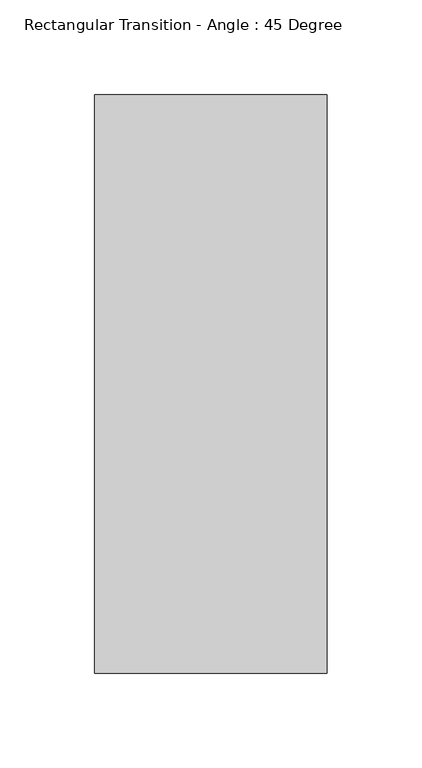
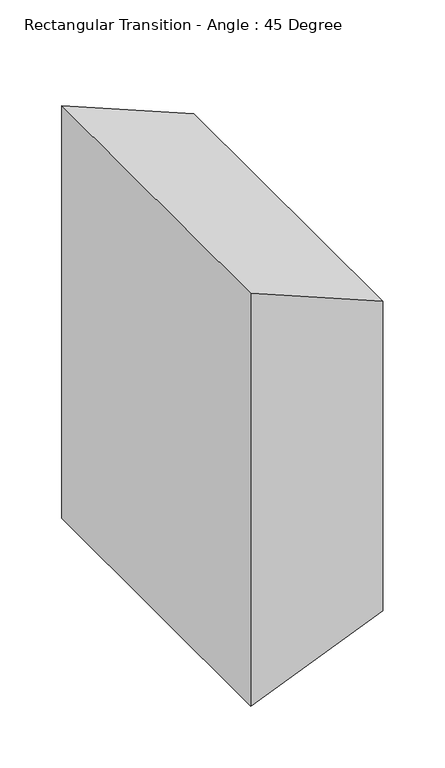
"""IFC4 building model written with IfcOpenShell, lengths in millimetres: duct fitting geometry, Rectangular Transition - Angle : 45 Degree."""

import ifcopenshell
import ifcopenshell.guid

model = None  # the IFC model being written
_history = None  # IfcOwnerHistory: only IFC2X3 demands one
_inside = {}  # id of a spatial element -> (the spatial element, [elements in it])
_under = {}  # id of a project, library or spatial element -> (it, [spatial elements below it])
_declared = {}  # id of a project -> (the project, [libraries it declares])
_typed = {}  # id of a type object -> (the type object, [elements of that type])
_made_of = {}  # id of a material, layer set ... -> (it, [elements and type objects made of it])


def new_model(schema):
    """Start an empty IFC model of exactly this schema.

    Asked for "IFC4X3", IfcOpenShell would pick the latest addendum, in which some entities
    have other attributes; the version numbers below select the first issue.
    IFC2X3 requires an IfcOwnerHistory on every rooted entity: one is made here for all.
    """
    global model, _history
    if schema == "IFC4X3":
        model = ifcopenshell.file(schema_version=(4, 3, 0, 0))
    else:
        model = ifcopenshell.file(schema=schema)
    _inside.clear()
    _under.clear()
    _declared.clear()
    _typed.clear()
    _made_of.clear()
    _history = None
    if model.schema == "IFC2X3":
        org = make("IfcOrganization", Name="unknown")
        user = make(
            "IfcPersonAndOrganization",
            ThePerson=make("IfcPerson", FamilyName="unknown"),
            TheOrganization=org,
        )
        app = make(
            "IfcApplication",
            ApplicationDeveloper=org,
            Version="unknown",
            ApplicationFullName="unknown",
            ApplicationIdentifier="unknown",
        )
        _history = make(
            "IfcOwnerHistory",
            OwningUser=user,
            OwningApplication=app,
            ChangeAction="ADDED",
            CreationDate=0,
        )
    return model


def make(cls, **values):
    """One entity of the class cls with the attributes given. An attribute that is None is left unset."""
    return model.create_entity(
        cls, **{name: value for name, value in values.items() if value is not None}
    )


def rooted(cls, **values):
    """An entity with a GlobalId (a new one), such as an element, a storey or a relation."""
    return make(cls, GlobalId=ifcopenshell.guid.new(), OwnerHistory=_history, **values)


def si_unit(unit_type, name, prefix=None):
    """IfcSIUnit, for example si_unit("LENGTHUNIT", "METRE", prefix="MILLI")."""
    return make("IfcSIUnit", UnitType=unit_type, Prefix=prefix, Name=name)


def assignment(units):
    """IfcUnitAssignment: the units of a project."""
    return None if units is None else make("IfcUnitAssignment", Units=units)


def point(xyz):
    """IfcCartesianPoint."""
    return None if xyz is None else make("IfcCartesianPoint", Coordinates=xyz)


def direction(xyz):
    """IfcDirection."""
    return None if xyz is None else make("IfcDirection", DirectionRatios=xyz)


def frame(location, z_axis=None, x_axis=None):
    """IfcAxis2Placement3D, a coordinate frame: its origin and axes. An axis left out is left unset."""
    return make(
        "IfcAxis2Placement3D",
        Location=point(location),
        Axis=direction(z_axis),
        RefDirection=direction(x_axis),
    )


def origin():
    """The frame at (0, 0, 0) with its axes left unset."""
    return frame((0.0, 0.0, 0.0))


def place(relative_to, where):
    """IfcLocalPlacement: puts the frame where relative to a parent placement (None: the world)."""
    return make(
        "IfcLocalPlacement", PlacementRelTo=relative_to, RelativePlacement=where
    )


def context(
    kind, dimensions, precision=None, world=None, true_north=None, identifier=None
):
    """IfcGeometricRepresentationContext, for example the 3D "Model" context."""
    return make(
        "IfcGeometricRepresentationContext",
        ContextIdentifier=identifier,
        ContextType=kind,
        CoordinateSpaceDimension=dimensions,
        Precision=precision,
        WorldCoordinateSystem=world,
        TrueNorth=true_north,
    )


def project(units=None, contexts=None):
    """IfcProject with its units and contexts."""
    return rooted(
        "IfcProject",
        Name="project",
        RepresentationContexts=contexts,
        UnitsInContext=assignment(units),
    )


def spatial(cls, under=None, at=None, **own):
    """A site, building, storey or space (cls), placed at a placement, below another one or the project."""
    s = rooted(cls, ObjectPlacement=at, **own)
    if under is not None:
        _under.setdefault(under.id(), (under, []))[1].append(s)
    return s


def polyline(points):
    """IfcPolyline through the points."""
    return make("IfcPolyline", Points=[point(p) for p in points])


def outline(outer, holes=None, kind="AREA"):
    """IfcArbitraryClosedProfileDef: a profile drawn as a closed curve; with holes, ...WithVoids."""
    if holes is None:
        return make("IfcArbitraryClosedProfileDef", ProfileType=kind, OuterCurve=outer)
    return make(
        "IfcArbitraryProfileDefWithVoids",
        ProfileType=kind,
        OuterCurve=outer,
        InnerCurves=holes,
    )


def extrude(swept, where, along, depth):
    """IfcExtrudedAreaSolid: the profile swept, set in the frame where, extruded along a direction by depth."""
    return make(
        "IfcExtrudedAreaSolid",
        SweptArea=swept,
        Position=where,
        ExtrudedDirection=direction(along),
        Depth=depth,
    )


def shape(context_of_items, identifier, shape_type, items):
    """IfcShapeRepresentation: the items that make up one representation, for example the "Body"."""
    return make(
        "IfcShapeRepresentation",
        ContextOfItems=context_of_items,
        RepresentationIdentifier=identifier,
        RepresentationType=shape_type,
        Items=items,
    )


def source(mapping_origin, context_of_items, identifier, shape_type, items):
    """IfcRepresentationMap: a shape defined once, which mapped items show again and again."""
    return make(
        "IfcRepresentationMap",
        MappingOrigin=mapping_origin,
        MappedRepresentation=shape(context_of_items, identifier, shape_type, items),
    )


def transform(
    local_origin,
    x_axis=None,
    y_axis=None,
    z_axis=None,
    scale=None,
    scale2=None,
    scale3=None,
    uniform=True,
):
    """IfcCartesianTransformationOperator3D, or its non-uniform kind. x_axis, y_axis, z_axis: its Axis1, 2, 3."""
    if uniform:
        return make(
            "IfcCartesianTransformationOperator3D",
            Axis1=direction(x_axis),
            Axis2=direction(y_axis),
            LocalOrigin=point(local_origin),
            Scale=scale,
            Axis3=direction(z_axis),
        )
    return make(
        "IfcCartesianTransformationOperator3DnonUniform",
        Axis1=direction(x_axis),
        Axis2=direction(y_axis),
        LocalOrigin=point(local_origin),
        Scale=scale,
        Axis3=direction(z_axis),
        Scale2=scale2,
        Scale3=scale3,
    )


def mapped(mapping_source, mapping_target):
    """IfcMappedItem: shows the shape of a source again, moved by a transform."""
    return make(
        "IfcMappedItem", MappingSource=mapping_source, MappingTarget=mapping_target
    )


def made_of(thing, what):
    """Note that an element or type object is made of a material, layer set ...; save() writes the relation."""
    if what is not None:
        _made_of.setdefault(what.id(), (what, []))[1].append(thing)
    return thing


def element(
    cls,
    number,
    at=None,
    inside=None,
    cuts=None,
    type_object=None,
    material=None,
    context=None,
    identifier="Body",
    shape_type=None,
    held_by="IfcProductDefinitionShape",
    body=None,
    shapes=None,
    **own,
):
    """One element of the class cls, such as IfcWall. Its Tag is "e" and its number.

    at: its placement. inside: the storey or other place that contains it. cuts: it is an
    opening in that element (IfcRelVoidsElement). A single representation is given by context,
    identifier, shape_type and body (its items); several are given by shapes. held_by: the class
    of the entity that holds the representations. save() writes the other relations.
    """
    e = rooted(cls, Tag="e%d" % number, ObjectPlacement=at, **own)
    if body is not None:
        shapes = [shape(context, identifier, shape_type, body)]
    if shapes is not None:
        e.Representation = make(held_by, Representations=shapes)
    if inside is not None:
        _inside.setdefault(inside.id(), (inside, []))[1].append(e)
    if cuts is not None:
        rooted(
            "IfcRelVoidsElement", RelatingBuildingElement=cuts, RelatedOpeningElement=e
        )
    if type_object is not None:
        _typed.setdefault(type_object.id(), (type_object, []))[1].append(e)
    return made_of(e, material)


def aggregate(whole, parts):
    """IfcRelAggregates: a whole, such as a stair, and the parts it consists of."""
    return rooted("IfcRelAggregates", RelatingObject=whole, RelatedObjects=parts)


def save(model, path):
    """Write the relations noted so far, then the file.

    IfcRelAggregates (storeys below a building ...), IfcRelContainedInSpatialStructure (elements
    in a storey), IfcRelDefinesByType, IfcRelAssociatesMaterial and IfcRelDeclares: one each for
    every whole, place, type object, material and project.
    """
    for whole, parts in _under.values():
        aggregate(whole, parts)
    for where, things in _inside.values():
        rooted(
            "IfcRelContainedInSpatialStructure",
            RelatedElements=things,
            RelatingStructure=where,
        )
    for kind, things in _typed.values():
        rooted("IfcRelDefinesByType", RelatedObjects=things, RelatingType=kind)
    for what, things in _made_of.values():
        rooted("IfcRelAssociatesMaterial", RelatedObjects=things, RelatingMaterial=what)
    for by, libraries in _declared.values():
        rooted("IfcRelDeclares", RelatingContext=by, RelatedDefinitions=libraries)
    model.write(path)


def rectangular_transition_angle_45_degree_58881a6c(model_context):
    return source(origin(), model_context, "Body", "SweptSolid", [
        extrude(outline(polyline([(203.2, 0.0), (-203.2, 0.0), (-152.4, 122.642049), (152.4, 122.642049), (203.2, 0.0)])), frame((0.0, -152.4, 0.0), z_axis=(0.0, 1.0, 0.0), x_axis=(0.0, 0.0, 1.0)), (0.0, 0.0, 1.0), 304.8),
    ])


if __name__ == "__main__":
    model = new_model("IFC4")
    model_context = context("Model", 3, world=origin())
    ifc_project = project(units=[si_unit("LENGTHUNIT", "METRE", prefix="MILLI")], contexts=[model_context])
    site = spatial("IfcSite", under=ifc_project)
    building = spatial("IfcBuilding", under=site)
    placement = place(None, origin())
    rectangular_transition_angle_45_degree_shape = rectangular_transition_angle_45_degree_58881a6c(model_context)
    element("IfcDuctFitting", 1, ObjectType="Rectangular Transition - Angle : 45 Degree", at=placement, inside=building, context=model_context, shape_type="MappedRepresentation", body=[
        mapped(rectangular_transition_angle_45_degree_shape, transform((0.0, 0.0, 0.0), x_axis=(1.0, 0.0, 0.0), y_axis=(0.0, 1.0, 0.0), z_axis=(0.0, 0.0, 1.0))),
    ])
    save(model, "model.ifc")
